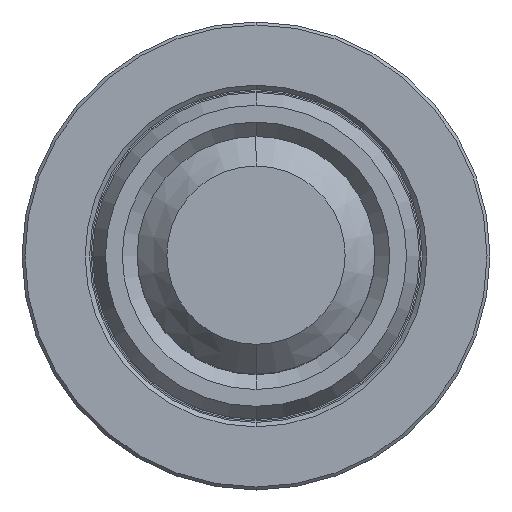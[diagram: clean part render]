
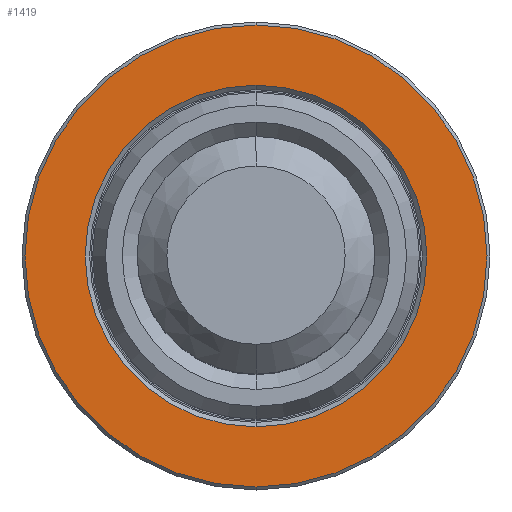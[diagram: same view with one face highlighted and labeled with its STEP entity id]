
A CAD part, top view. The second image highlights one B-rep face of the part: STEP entity #1419.
In plain terms, the highlighted planar face has unit normal (0, 0, 1).
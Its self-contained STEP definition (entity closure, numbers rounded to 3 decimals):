
#9 = DIRECTION ( 'NONE',  ( 0., 1., 0. ) ) ;
#14 = EDGE_CURVE ( 'NONE', #1436, #390, #1374, .T. ) ;
#153 = ORIENTED_EDGE ( 'NONE', *, *, #158, .T. ) ;
#158 = EDGE_CURVE ( 'NONE', #1438, #1559, #1285, .T. ) ;
#286 = DIRECTION ( 'NONE',  ( 0., 0., 1. ) ) ;
#306 = DIRECTION ( 'NONE',  ( 0., 0., -1. ) ) ;
#318 = FACE_BOUND ( 'NONE', #1116, .T. ) ;
#390 = VERTEX_POINT ( 'NONE', #1761 ) ;
#413 = ORIENTED_EDGE ( 'NONE', *, *, #1816, .T. ) ;
#432 = DIRECTION ( 'NONE',  ( 0., -1., 0. ) ) ;
#519 = CIRCLE ( 'NONE', #1574, 11.5 ) ;
#551 = AXIS2_PLACEMENT_3D ( 'NONE', #917, #1509, #1197 ) ;
#557 = CARTESIAN_POINT ( 'NONE',  ( 0., 0., 0. ) ) ;
#570 = CARTESIAN_POINT ( 'NONE',  ( 0., 11.5, 0. ) ) ;
#583 = EDGE_CURVE ( 'NONE', #390, #1436, #1836, .T. ) ;
#677 = EDGE_LOOP ( 'NONE', ( #1404, #725 ) ) ;
#725 = ORIENTED_EDGE ( 'NONE', *, *, #583, .T. ) ;
#868 = CARTESIAN_POINT ( 'NONE',  ( 11., 0., 0. ) ) ;
#896 = PLANE ( 'NONE',  #1196 ) ;
#917 = CARTESIAN_POINT ( 'NONE',  ( 0., 0., 0. ) ) ;
#977 = DIRECTION ( 'NONE',  ( 0., 0., -1. ) ) ;
#1054 = AXIS2_PLACEMENT_3D ( 'NONE', #1153, #286, #1453 ) ;
#1116 = EDGE_LOOP ( 'NONE', ( #413, #153 ) ) ;
#1153 = CARTESIAN_POINT ( 'NONE',  ( 0., 0., 0. ) ) ;
#1162 = FACE_OUTER_BOUND ( 'NONE', #677, .T. ) ;
#1196 = AXIS2_PLACEMENT_3D ( 'NONE', #868, #1740, #432 ) ;
#1197 = DIRECTION ( 'NONE',  ( 0., -1., 0. ) ) ;
#1216 = CARTESIAN_POINT ( 'NONE',  ( 0., -11.5, 0. ) ) ;
#1285 = CIRCLE ( 'NONE', #1349, 11.5 ) ;
#1349 = AXIS2_PLACEMENT_3D ( 'NONE', #1408, #977, #1560 ) ;
#1374 = CIRCLE ( 'NONE', #551, 15.55 ) ;
#1404 = ORIENTED_EDGE ( 'NONE', *, *, #14, .T. ) ;
#1408 = CARTESIAN_POINT ( 'NONE',  ( 0., 0., 0. ) ) ;
#1419 = ADVANCED_FACE ( 'NONE', ( #318, #1162 ), #896, .T. ) ;
#1436 = VERTEX_POINT ( 'NONE', #1443 ) ;
#1438 = VERTEX_POINT ( 'NONE', #570 ) ;
#1443 = CARTESIAN_POINT ( 'NONE',  ( 0., 15.55, 0. ) ) ;
#1453 = DIRECTION ( 'NONE',  ( 0., -1., 0. ) ) ;
#1509 = DIRECTION ( 'NONE',  ( 0., 0., 1. ) ) ;
#1559 = VERTEX_POINT ( 'NONE', #1216 ) ;
#1560 = DIRECTION ( 'NONE',  ( 0., 1., 0. ) ) ;
#1574 = AXIS2_PLACEMENT_3D ( 'NONE', #557, #306, #9 ) ;
#1740 = DIRECTION ( 'NONE',  ( 0., 0., 1. ) ) ;
#1761 = CARTESIAN_POINT ( 'NONE',  ( 0., -15.55, 0. ) ) ;
#1816 = EDGE_CURVE ( 'NONE', #1559, #1438, #519, .T. ) ;
#1836 = CIRCLE ( 'NONE', #1054, 15.55 ) ;
